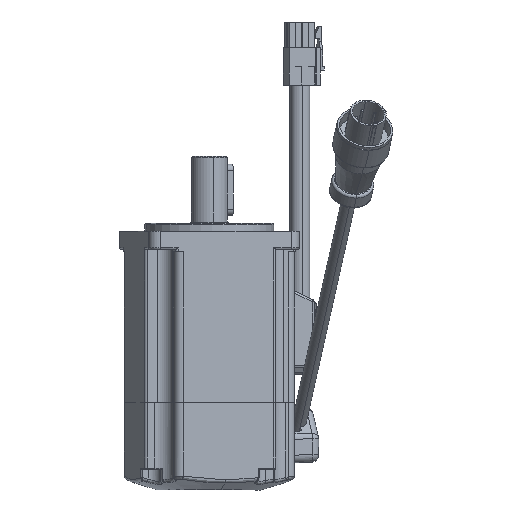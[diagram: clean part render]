
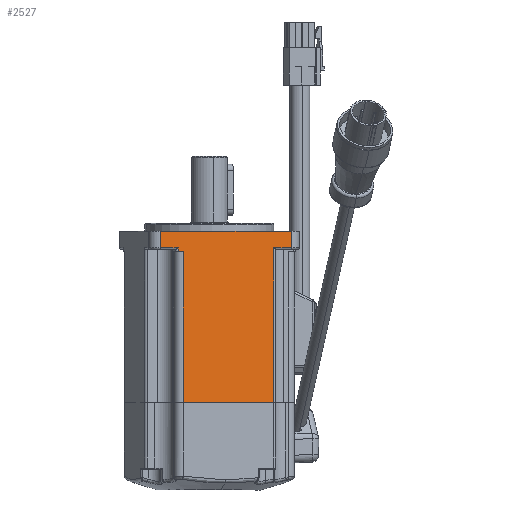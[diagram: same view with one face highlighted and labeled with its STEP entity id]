
A CAD part, left-side view. The second image highlights one B-rep face of the part: STEP entity #2527.
In plain terms, the highlighted planar face has unit normal (-0.977, -0.215, 0) as drawn and (-1, 0, 0) by its records, which use the part's own axes.
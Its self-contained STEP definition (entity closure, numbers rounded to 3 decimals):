
#1277=DIRECTION('',(0.,-1.,0.));
#1278=VECTOR('',#1277,7.);
#1279=CARTESIAN_POINT('',(-30.,-19.,1.5));
#1280=LINE('',#1279,#1278);
#1285=DIRECTION('',(0.,-1.,0.));
#1286=VECTOR('',#1285,52.);
#1287=CARTESIAN_POINT('',(-30.,26.,8.));
#1288=LINE('',#1287,#1286);
#1289=DIRECTION('',(0.,1.,0.));
#1290=VECTOR('',#1289,36.);
#1291=CARTESIAN_POINT('',(-30.,-19.,-58.5));
#1292=LINE('',#1291,#1290);
#1293=DIRECTION('',(0.,-1.,0.));
#1294=VECTOR('',#1293,2.);
#1295=CARTESIAN_POINT('',(-30.,19.,0.));
#1296=LINE('',#1295,#1294);
#1307=DIRECTION('',(0.,0.,-1.));
#1308=VECTOR('',#1307,58.5);
#1309=CARTESIAN_POINT('',(-30.,17.,0.));
#1310=LINE('',#1309,#1308);
#1482=DIRECTION('',(0.,0.,1.));
#1483=VECTOR('',#1482,6.5);
#1484=CARTESIAN_POINT('',(-30.,-26.,1.5));
#1485=LINE('',#1484,#1483);
#1733=DIRECTION('',(0.,0.,-1.));
#1734=VECTOR('',#1733,6.5);
#1735=CARTESIAN_POINT('',(-30.,26.,8.));
#1736=LINE('',#1735,#1734);
#1839=DIRECTION('',(0.,0.,-1.));
#1840=VECTOR('',#1839,1.5);
#1841=CARTESIAN_POINT('',(-30.,19.,1.5));
#1842=LINE('',#1841,#1840);
#1847=DIRECTION('',(0.,-1.,0.));
#1848=VECTOR('',#1847,7.);
#1849=CARTESIAN_POINT('',(-30.,26.,1.5));
#1850=LINE('',#1849,#1848);
#2122=DIRECTION('',(0.,0.,1.));
#2123=VECTOR('',#2122,60.);
#2124=CARTESIAN_POINT('',(-30.,-19.,-58.5));
#2125=LINE('',#2124,#2123);
#2176=CARTESIAN_POINT('',(-30.,-19.,1.5));
#2177=CARTESIAN_POINT('',(-30.,-26.,1.5));
#2178=VERTEX_POINT('',#2176);
#2179=VERTEX_POINT('',#2177);
#2180=CARTESIAN_POINT('',(-30.,19.,0.));
#2181=CARTESIAN_POINT('',(-30.,17.,0.));
#2182=VERTEX_POINT('',#2180);
#2183=VERTEX_POINT('',#2181);
#2184=CARTESIAN_POINT('',(-30.,19.,1.5));
#2185=VERTEX_POINT('',#2184);
#2186=CARTESIAN_POINT('',(-30.,26.,1.5));
#2187=VERTEX_POINT('',#2186);
#2188=CARTESIAN_POINT('',(-30.,26.,8.));
#2189=VERTEX_POINT('',#2188);
#2190=CARTESIAN_POINT('',(-30.,-26.,8.));
#2191=VERTEX_POINT('',#2190);
#2363=CARTESIAN_POINT('',(-30.,-19.,-58.5));
#2364=VERTEX_POINT('',#2363);
#2365=CARTESIAN_POINT('',(-30.,17.,-58.5));
#2366=VERTEX_POINT('',#2365);
#2501=CARTESIAN_POINT('',(-30.,26.,0.));
#2502=DIRECTION('',(-1.,0.,0.));
#2503=DIRECTION('',(0.,-1.,0.));
#2504=AXIS2_PLACEMENT_3D('',#2501,#2502,#2503);
#2505=PLANE('',#2504);
#2507=ORIENTED_EDGE('',*,*,#2506,.F.);
#2509=ORIENTED_EDGE('',*,*,#2508,.F.);
#2511=ORIENTED_EDGE('',*,*,#2510,.F.);
#2513=ORIENTED_EDGE('',*,*,#2512,.F.);
#2515=ORIENTED_EDGE('',*,*,#2514,.T.);
#2517=ORIENTED_EDGE('',*,*,#2516,.F.);
#2518=ORIENTED_EDGE('',*,*,#2491,.F.);
#2520=ORIENTED_EDGE('',*,*,#2519,.F.);
#2522=ORIENTED_EDGE('',*,*,#2521,.T.);
#2524=ORIENTED_EDGE('',*,*,#2523,.F.);
#2525=EDGE_LOOP('',(#2507,#2509,#2511,#2513,#2515,#2517,#2518,#2520,#2522,
#2524));
#2526=FACE_OUTER_BOUND('',#2525,.F.);
#2491=EDGE_CURVE('',#2178,#2179,#1280,.T.);
#2506=EDGE_CURVE('',#2182,#2183,#1296,.T.);
#2508=EDGE_CURVE('',#2185,#2182,#1842,.T.);
#2510=EDGE_CURVE('',#2187,#2185,#1850,.T.);
#2512=EDGE_CURVE('',#2189,#2187,#1736,.T.);
#2514=EDGE_CURVE('',#2189,#2191,#1288,.T.);
#2516=EDGE_CURVE('',#2179,#2191,#1485,.T.);
#2519=EDGE_CURVE('',#2364,#2178,#2125,.T.);
#2521=EDGE_CURVE('',#2364,#2366,#1292,.T.);
#2523=EDGE_CURVE('',#2183,#2366,#1310,.T.);
#2527=ADVANCED_FACE('',(#2526),#2505,.T.);
